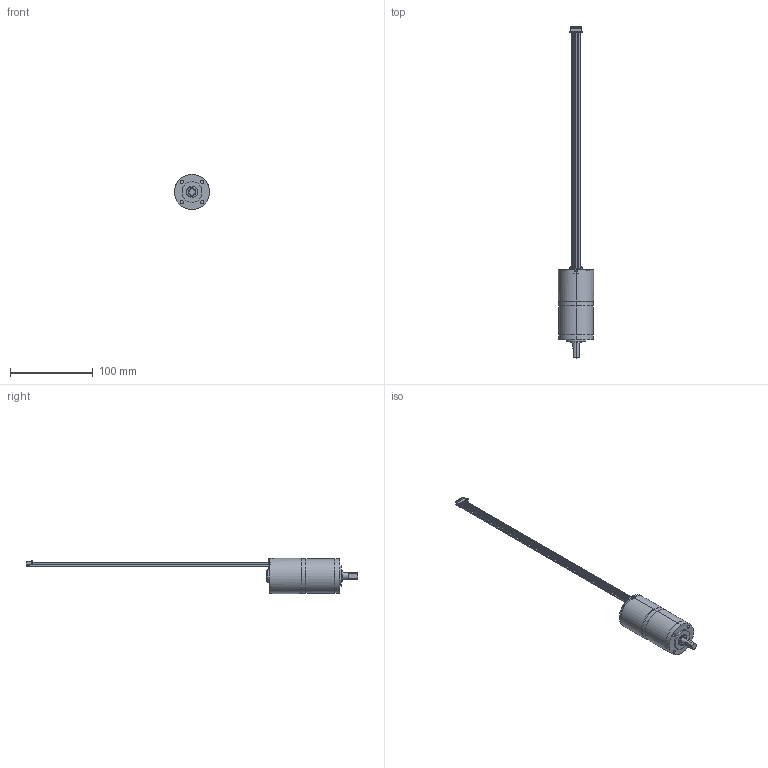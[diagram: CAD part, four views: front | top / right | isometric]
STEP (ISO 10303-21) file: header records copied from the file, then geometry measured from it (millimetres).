
FILE_DESCRIPTION((''),'2;1');
FILE_NAME('IG-42GM-61TYPE-3STAGE_ASM','2023-07-06T15:13:01',('M.C.Hsu'),(''),'CREO PARAMETRIC BY PTC INC, 2020414','CREO PARAMETRIC BY PTC INC, 2020414','');
FILE_SCHEMA(('CONFIG_CONTROL_DESIGN'));
Length unit declared in the file: millimetre
Products named in the file (19): _STEP; NONE-7702; NONE-8370; NONE-24866; NONE-26790; NONE-43939; NONE-45682; NONE-46523; NONE-46626; UVW__W_L___STEP_ASM; _W_L___STEP_ASM; BL42012102____F___20230202_STEP; 4239_D_B_STEP; XHP-5_STEP; BL42610101____U_M______STEP; BL4239__STEP000_ASM; IG420144-00; IG-42GM-61TYPE-3STAGE_1_ASM; IG-42GM-61TYPE-3STAGE_ASM
Assembly tree (18 placements, depth 6):
  IG-42GM-61TYPE-3STAGE_ASM
    IG-42GM-61TYPE-3STAGE_1_ASM
      BL4239__STEP000_ASM
        _STEP
        _W_L___STEP_ASM
          UVW__W_L___STEP_ASM
            NONE-7702
            NONE-8370
            NONE-24866
            NONE-26790
            NONE-43939
            NONE-45682
            NONE-46523
            NONE-46626
        BL42012102____F___20230202_STEP
        4239_D_B_STEP
        XHP-5_STEP
        BL42610101____U_M______STEP
      IG420144-00
Bounding box: 42.4 x 401.55 x 42.45 mm (x, y, z)
Volume: 78655.2 mm3; surface area: 41199.4 mm2
Topology: 14 solids, 14 shells, 384 faces, 906 edges, 594 vertices
Faces by surface type: plane 227, cylinder 121, torus 28, cone 8
Entity records: 11701 total; most frequent: DIRECTION 2130, CARTESIAN_POINT 2033, ORIENTED_EDGE 1812, EDGE_CURVE 906, AXIS2_PLACEMENT_3D 790, VERTEX_POINT 594, VECTOR 550, LINE 550
